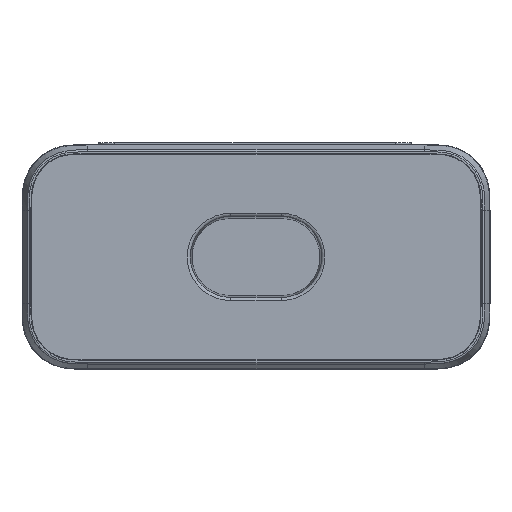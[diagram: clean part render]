
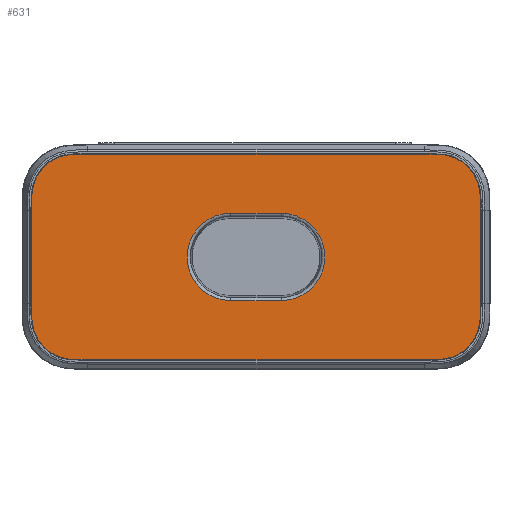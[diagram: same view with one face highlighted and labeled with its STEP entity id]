
A CAD part, left-side view. The second image highlights one B-rep face of the part: STEP entity #631.
In plain terms, the highlighted planar face has unit normal (-1, 0, 0).
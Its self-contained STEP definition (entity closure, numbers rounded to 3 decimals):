
#631=ADVANCED_FACE('',(#760,#761),#721,.T.);
#721=PLANE('',#4176);
#760=FACE_BOUND('',#989,.T.);
#761=FACE_BOUND('',#990,.T.);
#989=EDGE_LOOP('',(#1982,#1983,#1984,#1985));
#990=EDGE_LOOP('',(#1986,#1987,#1988,#1989,#1990,#1991,#1992,#1993));
#1982=ORIENTED_EDGE('',*,*,#2870,.F.);
#1983=ORIENTED_EDGE('',*,*,#2885,.T.);
#1984=ORIENTED_EDGE('',*,*,#2883,.F.);
#1985=ORIENTED_EDGE('',*,*,#2872,.T.);
#1986=ORIENTED_EDGE('',*,*,#2856,.T.);
#1987=ORIENTED_EDGE('',*,*,#2860,.T.);
#1988=ORIENTED_EDGE('',*,*,#2831,.T.);
#1989=ORIENTED_EDGE('',*,*,#2837,.T.);
#1990=ORIENTED_EDGE('',*,*,#2842,.T.);
#1991=ORIENTED_EDGE('',*,*,#2845,.T.);
#1992=ORIENTED_EDGE('',*,*,#2848,.T.);
#1993=ORIENTED_EDGE('',*,*,#2853,.T.);
#2326=VERTEX_POINT('',#9522);
#2328=VERTEX_POINT('',#9534);
#2332=VERTEX_POINT('',#9574);
#2337=VERTEX_POINT('',#9593);
#2338=VERTEX_POINT('',#9629);
#2340=VERTEX_POINT('',#9635);
#2344=VERTEX_POINT('',#9684);
#2346=VERTEX_POINT('',#9690);
#2357=VERTEX_POINT('',#9757);
#2358=VERTEX_POINT('',#9759);
#2359=VERTEX_POINT('',#9763);
#2367=VERTEX_POINT('',#9785);
#2831=EDGE_CURVE('',#2328,#2326,#3089,.T.);
#2837=EDGE_CURVE('',#2326,#2332,#3625,.T.);
#2842=EDGE_CURVE('',#2332,#2337,#3095,.T.);
#2845=EDGE_CURVE('',#2337,#2338,#3629,.T.);
#2848=EDGE_CURVE('',#2338,#2340,#3097,.T.);
#2853=EDGE_CURVE('',#2340,#2344,#3633,.T.);
#2856=EDGE_CURVE('',#2344,#2346,#3101,.T.);
#2860=EDGE_CURVE('',#2346,#2328,#3636,.T.);
#2870=EDGE_CURVE('',#2357,#2358,#3233,.T.);
#2872=EDGE_CURVE('',#2359,#2358,#3640,.T.);
#2883=EDGE_CURVE('',#2359,#2367,#3241,.T.);
#2885=EDGE_CURVE('',#2357,#2367,#3645,.T.);
#3089=B_SPLINE_CURVE_WITH_KNOTS('',3,(#9524,#9525,#9526,#9527,#9528,#9529,
#9530,#9531,#9532,#9533),.UNSPECIFIED.,.F.,.F.,(4,2,2,2,4),(0.,0.25,0.5,
0.75,1.),.UNSPECIFIED.);
#3095=B_SPLINE_CURVE_WITH_KNOTS('',3,(#9594,#9595,#9596,#9597,#9598,#9599,
#9600,#9601,#9602,#9603),.UNSPECIFIED.,.F.,.F.,(4,2,2,2,4),(0.,0.25,0.5,
0.75,1.),.UNSPECIFIED.);
#3097=B_SPLINE_CURVE_WITH_KNOTS('',3,(#9637,#9638,#9639,#9640,#9641,#9642,
#9643,#9644,#9645,#9646),.UNSPECIFIED.,.F.,.F.,(4,2,2,2,4),(0.,0.25,0.5,
0.75,1.),.UNSPECIFIED.);
#3101=B_SPLINE_CURVE_WITH_KNOTS('',3,(#9692,#9693,#9694,#9695,#9696,#9697,
#9698,#9699,#9700,#9701),.UNSPECIFIED.,.F.,.F.,(4,2,2,2,4),(0.,0.25,0.5,
0.75,1.),.UNSPECIFIED.);
#3233=CIRCLE('',#4159,6.991);
#3241=CIRCLE('',#4171,6.991);
#3625=LINE('',#9576,#3854);
#3629=LINE('',#9631,#3858);
#3633=LINE('',#9686,#3862);
#3636=LINE('',#9738,#3865);
#3640=LINE('',#9762,#3869);
#3645=LINE('',#9788,#3874);
#3854=VECTOR('',#4902,1.);
#3858=VECTOR('',#4908,1.);
#3862=VECTOR('',#4914,1.);
#3865=VECTOR('',#4919,1.);
#3869=VECTOR('',#4945,1.);
#3874=VECTOR('',#4974,1.);
#4159=AXIS2_PLACEMENT_3D('',#9758,#4939,#4940);
#4171=AXIS2_PLACEMENT_3D('',#9784,#4968,#4969);
#4176=AXIS2_PLACEMENT_3D('',#9793,#4981,#4982);
#4902=DIRECTION('',(0.,1.,0.));
#4908=DIRECTION('',(0.,0.,-1.));
#4914=DIRECTION('',(0.,-1.,0.));
#4919=DIRECTION('',(0.,0.,1.));
#4939=DIRECTION('',(-1.,0.,0.));
#4940=DIRECTION('',(0.,0.,1.));
#4945=DIRECTION('',(0.,1.,0.));
#4968=DIRECTION('',(-1.,0.,0.));
#4969=DIRECTION('',(0.,0.,-1.));
#4974=DIRECTION('',(0.,-1.,0.));
#4981=DIRECTION('',(-1.,0.,0.));
#4982=DIRECTION('',(0.,0.,-1.));
#9522=CARTESIAN_POINT('',(-76.,-27.,27.368));
#9524=CARTESIAN_POINT('',(-76.,-35.978,18.39));
#9525=CARTESIAN_POINT('',(-76.,-35.978,19.637));
#9526=CARTESIAN_POINT('',(-76.,-36.013,20.899));
#9527=CARTESIAN_POINT('',(-76.,-35.451,23.331));
#9528=CARTESIAN_POINT('',(-76.,-34.843,24.464));
#9529=CARTESIAN_POINT('',(-76.,-33.087,26.223));
#9530=CARTESIAN_POINT('',(-76.,-31.938,26.84));
#9531=CARTESIAN_POINT('',(-76.,-29.519,27.402));
#9532=CARTESIAN_POINT('',(-76.,-28.25,27.368));
#9533=CARTESIAN_POINT('',(-76.,-27.,27.368));
#9534=CARTESIAN_POINT('',(-76.,-35.978,18.39));
#9574=CARTESIAN_POINT('',(-76.,27.,27.368));
#9576=CARTESIAN_POINT('',(-76.,24.5,27.368));
#9593=CARTESIAN_POINT('',(-76.,35.978,18.39));
#9594=CARTESIAN_POINT('',(-76.,27.,27.368));
#9595=CARTESIAN_POINT('',(-76.,28.247,27.368));
#9596=CARTESIAN_POINT('',(-76.,29.509,27.404));
#9597=CARTESIAN_POINT('',(-76.,31.941,26.841));
#9598=CARTESIAN_POINT('',(-76.,33.074,26.232));
#9599=CARTESIAN_POINT('',(-76.,34.833,24.477));
#9600=CARTESIAN_POINT('',(-76.,35.451,23.328));
#9601=CARTESIAN_POINT('',(-76.,36.013,20.91));
#9602=CARTESIAN_POINT('',(-76.,35.978,19.64));
#9603=CARTESIAN_POINT('',(-76.,35.978,18.39));
#9629=CARTESIAN_POINT('',(-76.,35.978,3.39));
#9631=CARTESIAN_POINT('',(-76.,35.978,1.39));
#9635=CARTESIAN_POINT('',(-76.,27.,-5.588));
#9637=CARTESIAN_POINT('',(-76.,35.978,3.39));
#9638=CARTESIAN_POINT('',(-76.,35.978,2.143));
#9639=CARTESIAN_POINT('',(-76.,36.014,0.881));
#9640=CARTESIAN_POINT('',(-76.,35.451,-1.551));
#9641=CARTESIAN_POINT('',(-76.,34.842,-2.684));
#9642=CARTESIAN_POINT('',(-76.,33.087,-4.443));
#9643=CARTESIAN_POINT('',(-76.,31.938,-5.061));
#9644=CARTESIAN_POINT('',(-76.,29.52,-5.623));
#9645=CARTESIAN_POINT('',(-76.,28.25,-5.588));
#9646=CARTESIAN_POINT('',(-76.,27.,-5.588));
#9684=CARTESIAN_POINT('',(-76.,-27.,-5.588));
#9686=CARTESIAN_POINT('',(-76.,24.5,-5.588));
#9690=CARTESIAN_POINT('',(-76.,-35.978,3.39));
#9692=CARTESIAN_POINT('',(-76.,-27.,-5.588));
#9693=CARTESIAN_POINT('',(-76.,-28.247,-5.588));
#9694=CARTESIAN_POINT('',(-76.,-29.509,-5.623));
#9695=CARTESIAN_POINT('',(-76.,-31.941,-5.061));
#9696=CARTESIAN_POINT('',(-76.,-33.074,-4.453));
#9697=CARTESIAN_POINT('',(-76.,-34.833,-2.697));
#9698=CARTESIAN_POINT('',(-76.,-35.45,-1.548));
#9699=CARTESIAN_POINT('',(-76.,-36.012,0.871));
#9700=CARTESIAN_POINT('',(-76.,-35.978,2.14));
#9701=CARTESIAN_POINT('',(-76.,-35.978,3.39));
#9738=CARTESIAN_POINT('',(-76.,-35.978,1.39));
#9757=CARTESIAN_POINT('',(-76.,4.05,17.881));
#9758=CARTESIAN_POINT('',(-76.,4.05,10.89));
#9759=CARTESIAN_POINT('',(-76.,4.05,3.899));
#9762=CARTESIAN_POINT('',(-76.,-4.05,3.899));
#9763=CARTESIAN_POINT('',(-76.,-4.05,3.899));
#9784=CARTESIAN_POINT('',(-76.,-4.05,10.89));
#9785=CARTESIAN_POINT('',(-76.,-4.05,17.881));
#9788=CARTESIAN_POINT('',(-76.,4.05,17.881));
#9793=CARTESIAN_POINT('',(-76.,24.5,1.39));
